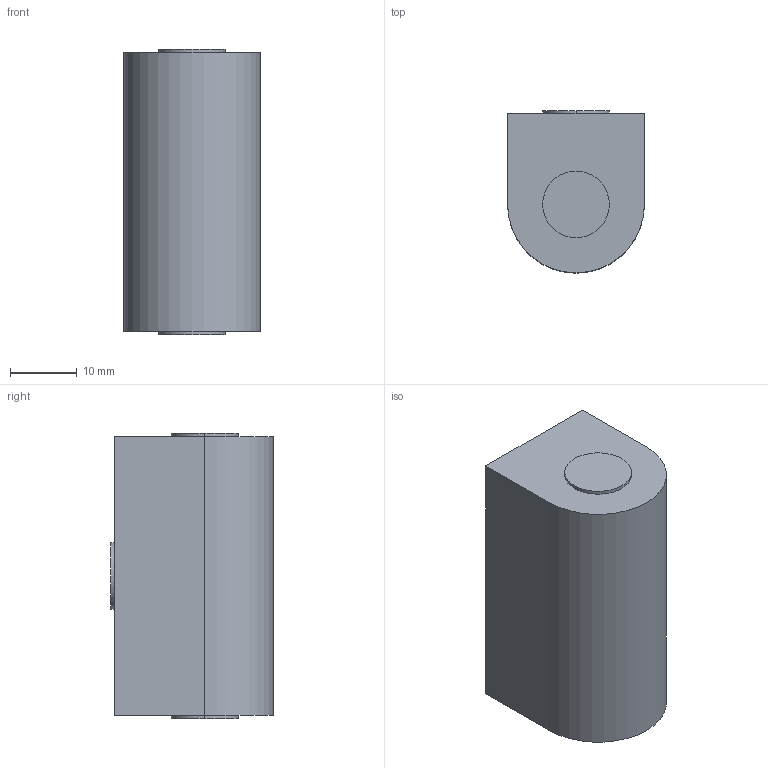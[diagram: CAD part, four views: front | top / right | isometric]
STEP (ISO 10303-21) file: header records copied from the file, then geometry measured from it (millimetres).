
FILE_DESCRIPTION (( 'STEP AP214' ), '1' );
FILE_NAME ('xo_screen_keyboard_joint.STEP', '2009-11-01T02:45:24', ( '' ), ( '' ), 'SwSTEP 2.0', 'SolidWorks 2009', '' );
FILE_SCHEMA (( 'AUTOMOTIVE_DESIGN' ));
Length unit declared in the file: millimetre
Products named in the file (1): xo_screen_keyboard_joint
Bounding box: 20.5 x 24.31 x 42.8 mm (x, y, z)
Volume: 18637.8 mm3; surface area: 4270 mm2
Topology: 1 solids, 1 shells, 15 faces, 30 edges, 20 vertices
Faces by surface type: plane 8, cylinder 7
Entity records: 432 total; most frequent: DIRECTION 76, CARTESIAN_POINT 66, ORIENTED_EDGE 60, AXIS2_PLACEMENT_3D 30, EDGE_CURVE 30, VERTEX_POINT 20, EDGE_LOOP 18, LINE 16
